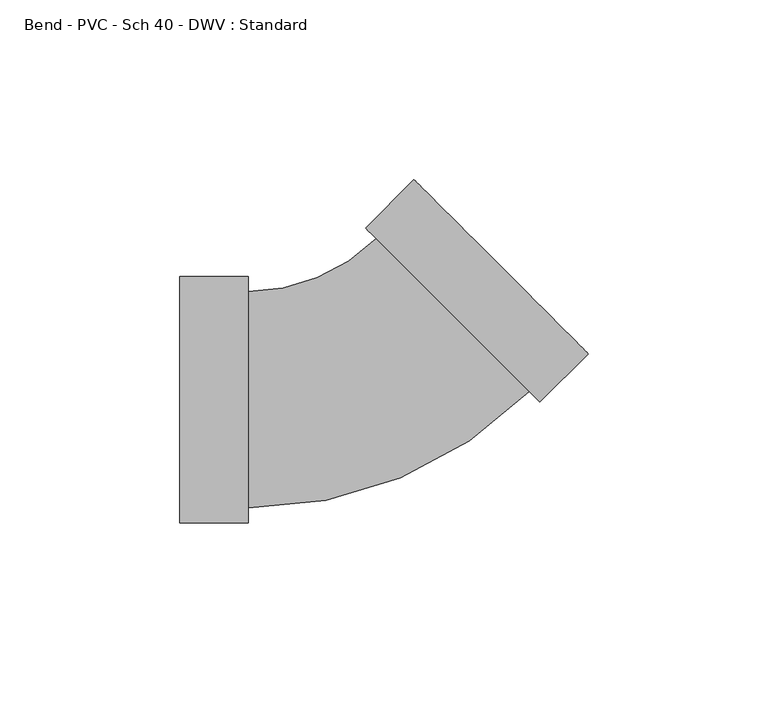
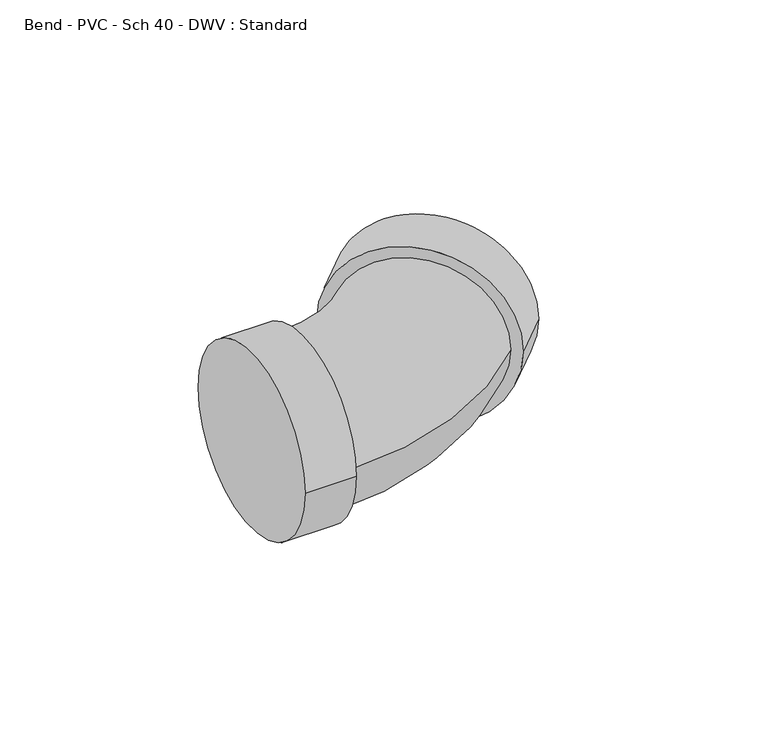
"""IFC4 building model written with IfcOpenShell, lengths in millimetres: pipe fitting geometry, Bend - PVC - Sch 40 - DWV : Standard."""

from ifc_helpers import new_model, si_unit, point, frame, origin, place, context, project, spatial, circle_curve, ellipse_curve, trimmed, source, transform, mapped, element, save
from ifc_brep_helpers import plane_surface, cylinder_surface, revolved_surface, advanced_brep


def bend_pvc_sch_40_dwv_standard_febcfed9(model_context):
    return source(origin(), model_context, "Body", "AdvancedBrep", [
        advanced_brep(
        [(-52.4002, -34.3154, 0.0), (-52.4002, 34.3154, 0.0), (-33.3502, -34.3154, 0.0), (-33.3502, 34.3154, 0.0), (-33.3502, -30.1625, 0.0), (-33.3502, 30.1625, 0.0), (2.2533823, 44.9102941, 0.0), (44.9102276, 2.2547063, 0.0), (47.8468147, -0.6817942, 0.0), (-0.6832047, 47.8467945, 0.0), (61.3170003, 12.7887885, 0.0), (12.7869809, 61.3173773, 0.0)],
        [
            (0, 1, circle_curve(frame((-52.4002, 0.0, 0.0), z_axis=(-1.0, 0.0, 0.0), x_axis=(0.0, 1.0, 0.0)), 34.3154)),
            (1, 0, circle_curve(frame((-52.4002, 0.0, 0.0), z_axis=(-1.0, 0.0, 0.0), x_axis=(0.0, 1.0, 0.0)), 34.3154)),
            (2, 3, circle_curve(frame((-33.3502, 0.0, 0.0), z_axis=(1.0, 0.0, 0.0), x_axis=(0.0, 1.0, 0.0)), 34.3154)),
            (3, 2, circle_curve(frame((-33.3502, 0.0, 0.0), z_axis=(1.0, 0.0, 0.0), x_axis=(0.0, 1.0, 0.0)), 34.3154)),
            (4, 5, circle_curve(frame((-33.3502, 0.0, 0.0), z_axis=(-1.0, 0.0, 0.0), x_axis=(0.0, 1.0, 0.0)), 30.1625)),
            (5, 4, circle_curve(frame((-33.3502, 0.0, 0.0), z_axis=(-1.0, 0.0, 0.0), x_axis=(0.0, 1.0, 0.0)), 30.1625)),
            (0, 2),
            (3, 1),
            (6, 5, circle_curve(frame((-33.3502, 80.5128268, 0.0), z_axis=(0.0, 0.0, -1.0), x_axis=(0.0, -1.0, 0.0)), 50.3503268)),
            (4, 7, circle_curve(frame((-33.3502, 80.5128268, 0.0), z_axis=(0.0, 0.0, 1.0), x_axis=(0.0, -1.0, 0.0)), 110.6753268)),
            (7, 6, circle_curve(frame((23.581805, 23.5825002, 0.0), z_axis=(-0.707096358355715, -0.7071172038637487, 0.0), x_axis=(-0.7071172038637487, 0.707096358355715, 0.0)), 30.1625)),
            (6, 7, circle_curve(frame((23.581805, 23.5825002, 0.0), z_axis=(-0.707096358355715, -0.7071172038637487, 0.0), x_axis=(-0.7071172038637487, 0.707096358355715, 0.0)), 30.1625)),
            (8, 9, circle_curve(frame((23.581805, 23.5825002, 0.0), z_axis=(-0.7070963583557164, -0.7071172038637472, 0.0), x_axis=(-0.7071172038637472, 0.7070963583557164, 0.0)), 34.3154)),
            (9, 8, circle_curve(frame((23.581805, 23.5825002, 0.0), z_axis=(-0.7070963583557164, -0.7071172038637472, 0.0), x_axis=(-0.7071172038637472, 0.7070963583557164, 0.0)), 34.3154)),
            (10, 11, circle_curve(frame((37.0519906, 37.0530829, 0.0), z_axis=(0.7070963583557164, 0.7071172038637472, 0.0), x_axis=(-0.7071172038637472, 0.7070963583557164, 0.0)), 34.3154)),
            (11, 10, circle_curve(frame((37.0519906, 37.0530829, 0.0), z_axis=(0.7070963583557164, 0.7071172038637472, 0.0), x_axis=(-0.7071172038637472, 0.7070963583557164, 0.0)), 34.3154)),
            (8, 10),
            (11, 9),
        ],
        [
            plane_surface(frame((-52.4002, 0.0, 0.0), z_axis=(-1.0, 0.0, 0.0), x_axis=(0.0, 0.0, 1.0))),
            plane_surface(frame((-33.3502, 0.0, 0.0), z_axis=(1.0, 0.0, 0.0), x_axis=(0.0, 0.0, 1.0))),
            cylinder_surface(frame((-52.4002, 0.0, 0.0), z_axis=(-1.0, 0.0, 0.0), x_axis=(0.0, 1.0, 0.0)), 34.3154),
            revolved_surface(trimmed(ellipse_curve(frame((-33.3502, 0.0, 0.0), z_axis=(-1.0, 0.0, 0.0), x_axis=(0.0, 1.0, 0.0)), 30.1625, 30.1625), [point((-33.3502, -30.1625, 0.0))], [point((-33.3502, 30.1625, 0.0))], True, "CARTESIAN"), (-33.3502, 80.5128268, 0.0), (0.0, 0.0, 1.0)),
            revolved_surface(trimmed(ellipse_curve(frame((-33.3502, 0.0, 0.0), z_axis=(-1.0, 0.0, 0.0), x_axis=(0.0, 1.0, 0.0)), 30.1625, 30.1625), [point((-33.3502, 30.1625, 0.0))], [point((-33.3502, -30.1625, 0.0))], True, "CARTESIAN"), (-33.3502, 80.5128268, 0.0), (0.0, 0.0, 1.0)),
            plane_surface(frame((23.581805, 23.5825002, 0.0), z_axis=(-0.7070963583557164, -0.7071172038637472, 0.0), x_axis=(0.0, 0.0, 1.0))),
            plane_surface(frame((37.0519906, 37.0530829, 0.0), z_axis=(0.7070963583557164, 0.7071172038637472, 0.0), x_axis=(0.0, 0.0, 1.0))),
            cylinder_surface(frame((23.581805, 23.5825002, 0.0), z_axis=(-0.7070963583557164, -0.7071172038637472, 0.0), x_axis=(-0.7071172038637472, 0.7070963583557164, 0.0)), 34.3154),
        ],
        [
            (0, [[1, 2]]),
            (1, [[3, 4], [5, 6]]),
            (2, [[-1, 7, -4, 8]]),
            (2, [[-2, -8, -3, -7]]),
            (3, [[9, -5, 10, 11]]),
            (4, [[-9, 12, -10, -6]]),
            (5, [[13, 14], [-11, -12]]),
            (6, [[15, 16]]),
            (7, [[-13, 17, -16, 18]]),
            (7, [[-14, -18, -15, -17]]),
        ],
    ),
    ])


if __name__ == "__main__":
    model = new_model("IFC4")
    model_context = context("Model", 3, world=origin())
    ifc_project = project(units=[si_unit("LENGTHUNIT", "METRE", prefix="MILLI")], contexts=[model_context])
    site = spatial("IfcSite", under=ifc_project)
    building = spatial("IfcBuilding", under=site)
    placement = place(None, origin())
    bend_pvc_sch_40_dwv_standard_shape = bend_pvc_sch_40_dwv_standard_febcfed9(model_context)
    element("IfcPipeFitting", 1, ObjectType="Bend - PVC - Sch 40 - DWV : Standard", at=placement, inside=building, context=model_context, shape_type="MappedRepresentation", body=[
        mapped(bend_pvc_sch_40_dwv_standard_shape, transform((0.0, 0.0, 0.0), x_axis=(1.0, 0.0, 0.0), y_axis=(0.0, 1.0, 0.0), z_axis=(0.0, 0.0, 1.0))),
    ])
    save(model, "model.ifc")
